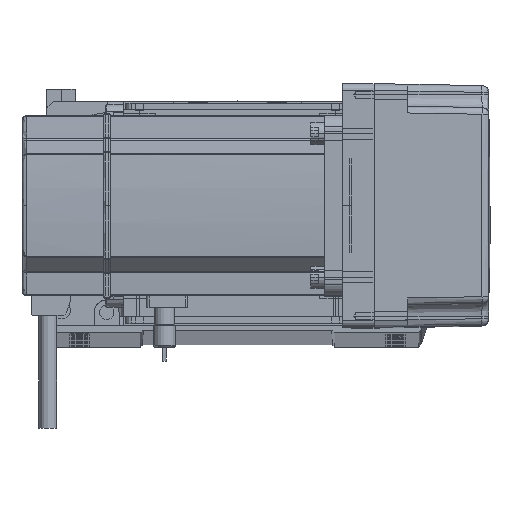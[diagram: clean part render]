
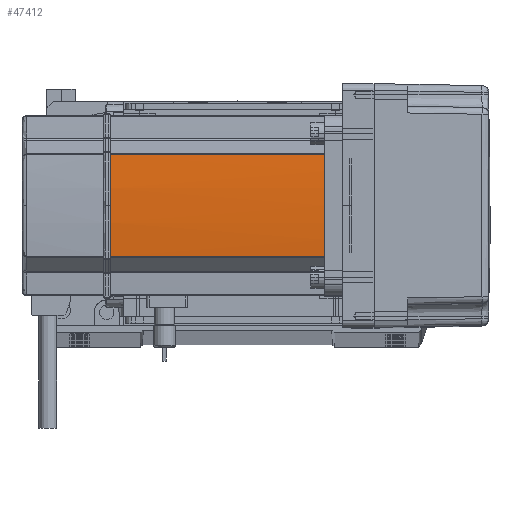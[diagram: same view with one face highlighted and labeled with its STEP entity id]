
A CAD part, top view. The second image highlights one B-rep face of the part: STEP entity #47412.
In plain terms, the highlighted cylindrical face has radius 270 mm (diameter 540 mm), a partial arc.
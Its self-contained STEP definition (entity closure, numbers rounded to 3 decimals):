
#168 = CARTESIAN_POINT ( 'NONE',  ( 230., 0., 134. ) ) ;
#1626 = VERTEX_POINT ( 'NONE', #17851 ) ;
#7454 = CARTESIAN_POINT ( 'NONE',  ( 230., 0., 0. ) ) ;
#9138 = ORIENTED_EDGE ( 'NONE', *, *, #20698, .T. ) ;
#10212 = CARTESIAN_POINT ( 'NONE',  ( -39.042, 22.724, 39. ) ) ;
#15630 = FACE_OUTER_BOUND ( 'NONE', #22225, .T. ) ;
#15983 = VECTOR ( 'NONE', #66219, 1000. ) ;
#16205 = DIRECTION ( 'NONE',  ( 1., 0., 0. ) ) ;
#16507 = CYLINDRICAL_SURFACE ( 'NONE', #28254, 270. ) ;
#17326 = ORIENTED_EDGE ( 'NONE', *, *, #37875, .T. ) ;
#17851 = CARTESIAN_POINT ( 'NONE',  ( -40., 0., 134. ) ) ;
#20606 = CARTESIAN_POINT ( 'NONE',  ( 230., 0., 134. ) ) ;
#20698 = EDGE_CURVE ( 'NONE', #57133, #40187, #39056, .T. ) ;
#22225 = EDGE_LOOP ( 'NONE', ( #28008, #54465, #9138, #63404, #17326 ) ) ;
#26666 = EDGE_CURVE ( 'NONE', #1626, #57133, #33549, .T. ) ;
#26813 = CIRCLE ( 'NONE', #46956, 270. ) ;
#28008 = ORIENTED_EDGE ( 'NONE', *, *, #53636, .T. ) ;
#28254 = AXIS2_PLACEMENT_3D ( 'NONE', #7454, #60140, #61497 ) ;
#29832 = DIRECTION ( 'NONE',  ( 0., 0., -1. ) ) ;
#33549 = CIRCLE ( 'NONE', #54194, 270. ) ;
#35026 = CARTESIAN_POINT ( 'NONE',  ( -39.042, -22.724, 134. ) ) ;
#36953 = DIRECTION ( 'NONE',  ( 0., 0., -1. ) ) ;
#37034 = CARTESIAN_POINT ( 'NONE',  ( -39.042, 22.724, 134. ) ) ;
#37334 = LINE ( 'NONE', #51194, #39831 ) ;
#37875 = EDGE_CURVE ( 'NONE', #65729, #59385, #37334, .T. ) ;
#38731 = AXIS2_PLACEMENT_3D ( 'NONE', #20606, #42476, #57477 ) ;
#39056 = LINE ( 'NONE', #39954, #15983 ) ;
#39831 = VECTOR ( 'NONE', #51633, 1000. ) ;
#39954 = CARTESIAN_POINT ( 'NONE',  ( -39.042, 22.724, 0. ) ) ;
#40187 = VERTEX_POINT ( 'NONE', #10212 ) ;
#40511 = EDGE_CURVE ( 'NONE', #65729, #40187, #26813, .T. ) ;
#42476 = DIRECTION ( 'NONE',  ( 0., 0., -1. ) ) ;
#46956 = AXIS2_PLACEMENT_3D ( 'NONE', #56135, #29832, #66713 ) ;
#47412 = ADVANCED_FACE ( 'NONE', ( #15630 ), #16507, .T. ) ;
#51194 = CARTESIAN_POINT ( 'NONE',  ( -39.042, -22.724, 0. ) ) ;
#51633 = DIRECTION ( 'NONE',  ( 0., 0., 1. ) ) ;
#53636 = EDGE_CURVE ( 'NONE', #59385, #1626, #53663, .T. ) ;
#53663 = CIRCLE ( 'NONE', #38731, 270. ) ;
#54194 = AXIS2_PLACEMENT_3D ( 'NONE', #168, #36953, #16205 ) ;
#54465 = ORIENTED_EDGE ( 'NONE', *, *, #26666, .T. ) ;
#56135 = CARTESIAN_POINT ( 'NONE',  ( 230., 0., 39. ) ) ;
#57133 = VERTEX_POINT ( 'NONE', #37034 ) ;
#57477 = DIRECTION ( 'NONE',  ( 1., 0., 0. ) ) ;
#59385 = VERTEX_POINT ( 'NONE', #35026 ) ;
#60140 = DIRECTION ( 'NONE',  ( 0., 0., 1. ) ) ;
#61497 = DIRECTION ( 'NONE',  ( 1., 0., 0. ) ) ;
#63404 = ORIENTED_EDGE ( 'NONE', *, *, #40511, .F. ) ;
#65729 = VERTEX_POINT ( 'NONE', #66376 ) ;
#66219 = DIRECTION ( 'NONE',  ( 0., 0., -1. ) ) ;
#66376 = CARTESIAN_POINT ( 'NONE',  ( -39.042, -22.724, 39. ) ) ;
#66713 = DIRECTION ( 'NONE',  ( 1., 0., 0. ) ) ;
